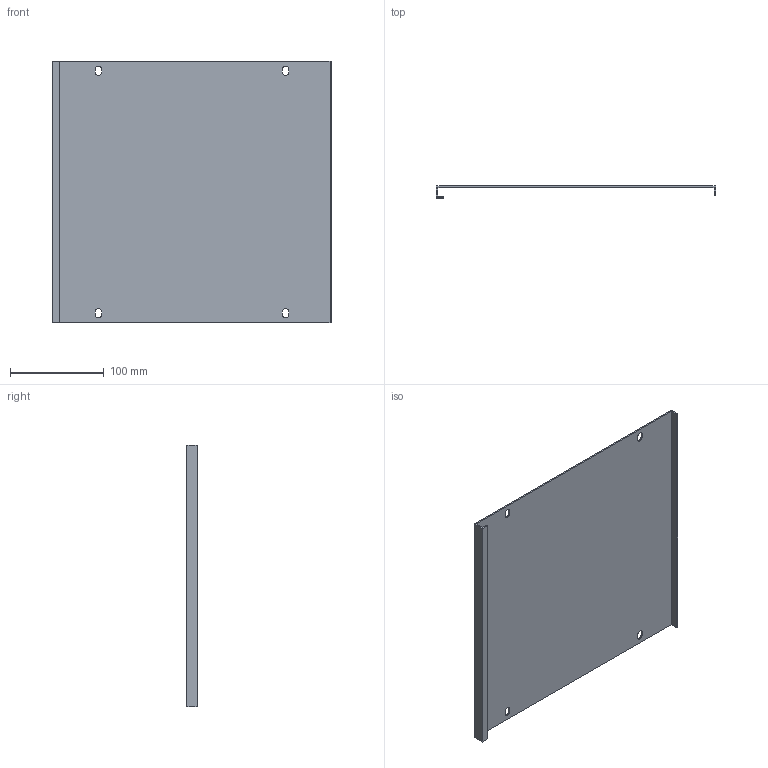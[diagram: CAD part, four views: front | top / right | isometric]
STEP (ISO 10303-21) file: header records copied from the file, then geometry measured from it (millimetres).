
FILE_DESCRIPTION (( 'STEP AP214' ), '1' );
FILE_NAME ('FO-00-PVS-030-040 Ïëàñòðîí ãëóõîé âíóòðåííèé 300õ400.STEP', '2025-08-26T10:13:57', ( '' ), ( '' ), 'SwSTEP 2.0', 'SolidWorks 2023', '' );
FILE_SCHEMA (( 'AUTOMOTIVE_DESIGN' ));
Length unit declared in the file: millimetre
Products named in the file (1): FO-00-PVS-030-040 Пластрон глухой внутренний 300х400
Bounding box: 298 x 12.5 x 279 mm (x, y, z)
Volume: 135237.1 mm3; surface area: 182293.1 mm2
Topology: 1 solids, 1 shells, 42 faces, 120 edges, 80 vertices
Faces by surface type: plane 30, cylinder 12
Entity records: 1407 total; most frequent: CARTESIAN_POINT 243, ORIENTED_EDGE 240, DIRECTION 230, EDGE_CURVE 120, VECTOR 96, LINE 96, VERTEX_POINT 80, AXIS2_PLACEMENT_3D 67
